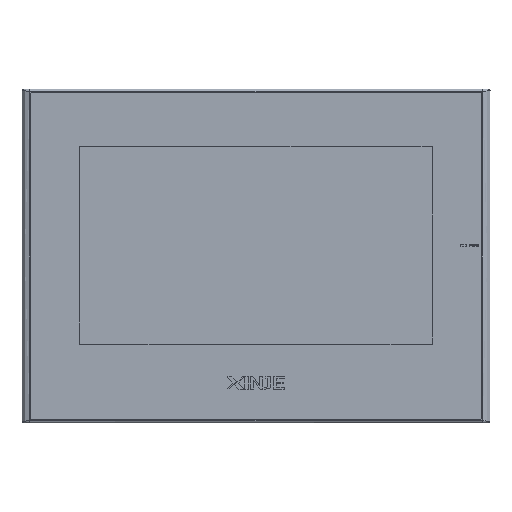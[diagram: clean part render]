
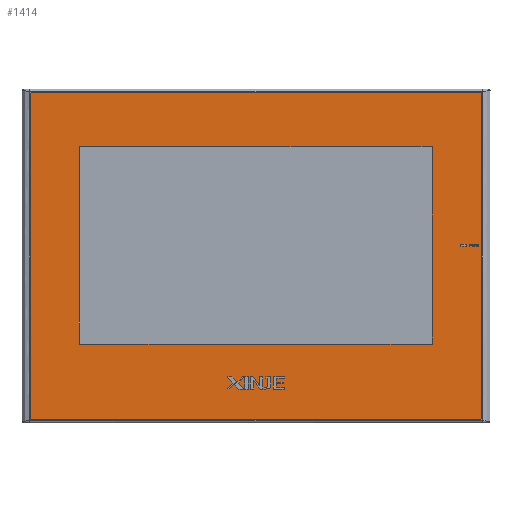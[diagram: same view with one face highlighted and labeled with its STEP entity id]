
A CAD part, front view. The second image highlights one B-rep face of the part: STEP entity #1414.
In plain terms, the highlighted free-form (B-spline) face has degree [1, 1] with [2, 2] control points.
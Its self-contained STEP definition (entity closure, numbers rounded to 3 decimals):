
#146=(
BOUNDED_CURVE()
B_SPLINE_CURVE(2,(#39148,#39149,#39150),.UNSPECIFIED.,.F.,.F.)
B_SPLINE_CURVE_WITH_KNOTS((3,3),(-1165.627,-1023.427),
 .UNSPECIFIED.)
CURVE()
GEOMETRIC_REPRESENTATION_ITEM()
RATIONAL_B_SPLINE_CURVE((1.,1.,1.))
REPRESENTATION_ITEM('')
);
#150=(
BOUNDED_CURVE()
B_SPLINE_CURVE(2,(#39160,#39161,#39162,#39163,#39164),.UNSPECIFIED.,.F.,
 .F.)
B_SPLINE_CURVE_WITH_KNOTS((3,2,3),(-1023.427,-1022.765,
-1022.102),.UNSPECIFIED.)
CURVE()
GEOMETRIC_REPRESENTATION_ITEM()
RATIONAL_B_SPLINE_CURVE((1.,0.924,1.,0.924,1.))
REPRESENTATION_ITEM('')
);
#153=(
BOUNDED_CURVE()
B_SPLINE_CURVE(2,(#39170,#39171,#39172),.UNSPECIFIED.,.F.,.F.)
B_SPLINE_CURVE_WITH_KNOTS((3,3),(-1022.102,-825.902),
 .UNSPECIFIED.)
CURVE()
GEOMETRIC_REPRESENTATION_ITEM()
RATIONAL_B_SPLINE_CURVE((1.,1.,1.))
REPRESENTATION_ITEM('')
);
#156=(
BOUNDED_CURVE()
B_SPLINE_CURVE(2,(#39180,#39181,#39182,#39183,#39184),.UNSPECIFIED.,.F.,
 .F.)
B_SPLINE_CURVE_WITH_KNOTS((3,2,3),(-825.902,-825.239,
-824.576),.UNSPECIFIED.)
CURVE()
GEOMETRIC_REPRESENTATION_ITEM()
RATIONAL_B_SPLINE_CURVE((1.,0.924,1.,0.924,1.))
REPRESENTATION_ITEM('')
);
#159=(
BOUNDED_CURVE()
B_SPLINE_CURVE(2,(#39190,#39191,#39192),.UNSPECIFIED.,.F.,.F.)
B_SPLINE_CURVE_WITH_KNOTS((3,3),(-824.576,-682.376),
 .UNSPECIFIED.)
CURVE()
GEOMETRIC_REPRESENTATION_ITEM()
RATIONAL_B_SPLINE_CURVE((1.,1.,1.))
REPRESENTATION_ITEM('')
);
#162=(
BOUNDED_CURVE()
B_SPLINE_CURVE(2,(#39200,#39201,#39202,#39203,#39204),.UNSPECIFIED.,.F.,
 .F.)
B_SPLINE_CURVE_WITH_KNOTS((3,2,3),(-682.376,-681.714,
-681.051),.UNSPECIFIED.)
CURVE()
GEOMETRIC_REPRESENTATION_ITEM()
RATIONAL_B_SPLINE_CURVE((1.,0.924,1.,0.924,1.))
REPRESENTATION_ITEM('')
);
#165=(
BOUNDED_CURVE()
B_SPLINE_CURVE(2,(#39210,#39211,#39212),.UNSPECIFIED.,.F.,.F.)
B_SPLINE_CURVE_WITH_KNOTS((3,3),(-681.051,-484.851),
 .UNSPECIFIED.)
CURVE()
GEOMETRIC_REPRESENTATION_ITEM()
RATIONAL_B_SPLINE_CURVE((1.,1.,1.))
REPRESENTATION_ITEM('')
);
#167=(
BOUNDED_CURVE()
B_SPLINE_CURVE(2,(#39216,#39217,#39218),.UNSPECIFIED.,.F.,.F.)
B_SPLINE_CURVE_WITH_KNOTS((3,3),(-484.851,-483.251),
 .UNSPECIFIED.)
CURVE()
GEOMETRIC_REPRESENTATION_ITEM()
RATIONAL_B_SPLINE_CURVE((1.,0.707,1.))
REPRESENTATION_ITEM('')
);
#532=B_SPLINE_SURFACE_WITH_KNOTS('',1,1,((#39123,#39124),(#39125,#39126)),
 .UNSPECIFIED.,.F.,.F.,.F.,(2,2),(2,2),(-222.525,24.725),
(-18.775,160.975),.UNSPECIFIED.);
#1414=ADVANCED_FACE('',(#3473),#532,.T.);
#3473=FACE_OUTER_BOUND('',#5534,.T.);
#5534=EDGE_LOOP('',(#7885,#7886,#7887,#7888,#7889,#7890,#7891,#7892));
#7885=ORIENTED_EDGE('',*,*,#19020,.T.);
#7886=ORIENTED_EDGE('',*,*,#19024,.T.);
#7887=ORIENTED_EDGE('',*,*,#19027,.T.);
#7888=ORIENTED_EDGE('',*,*,#19030,.T.);
#7889=ORIENTED_EDGE('',*,*,#19033,.T.);
#7890=ORIENTED_EDGE('',*,*,#19036,.T.);
#7891=ORIENTED_EDGE('',*,*,#19039,.T.);
#7892=ORIENTED_EDGE('',*,*,#19041,.T.);
#19020=EDGE_CURVE('',#29829,#29828,#146,.T.);
#19024=EDGE_CURVE('',#29828,#29831,#150,.T.);
#19027=EDGE_CURVE('',#29831,#29833,#153,.T.);
#19030=EDGE_CURVE('',#29833,#29835,#156,.T.);
#19033=EDGE_CURVE('',#29835,#29837,#159,.T.);
#19036=EDGE_CURVE('',#29837,#29839,#162,.T.);
#19039=EDGE_CURVE('',#29839,#29841,#165,.T.);
#19041=EDGE_CURVE('',#29841,#29829,#167,.T.);
#29828=VERTEX_POINT('',#39129);
#29829=VERTEX_POINT('',#39130);
#29831=VERTEX_POINT('',#39132);
#29833=VERTEX_POINT('',#39134);
#29835=VERTEX_POINT('',#39136);
#29837=VERTEX_POINT('',#39138);
#29839=VERTEX_POINT('',#39140);
#29841=VERTEX_POINT('',#39142);
#39123=CARTESIAN_POINT('',(226.63,0.305,16.314));
#39124=CARTESIAN_POINT('',(226.63,0.305,-163.436));
#39125=CARTESIAN_POINT('',(-20.62,0.305,16.314));
#39126=CARTESIAN_POINT('',(-20.62,0.305,-163.436));
#39129=CARTESIAN_POINT('',(4.105,0.305,-144.661));
#39130=CARTESIAN_POINT('',(4.105,0.305,-2.461));
#39132=CARTESIAN_POINT('',(4.905,0.305,-145.461));
#39134=CARTESIAN_POINT('',(201.105,0.305,-145.461));
#39136=CARTESIAN_POINT('',(201.905,0.305,-144.661));
#39138=CARTESIAN_POINT('',(201.905,0.305,-2.461));
#39140=CARTESIAN_POINT('',(201.105,0.305,-1.661));
#39142=CARTESIAN_POINT('',(4.905,0.305,-1.661));
#39148=CARTESIAN_POINT('',(4.105,0.305,-2.461));
#39149=CARTESIAN_POINT('',(4.105,0.305,-73.561));
#39150=CARTESIAN_POINT('',(4.105,0.305,-144.661));
#39160=CARTESIAN_POINT('',(4.105,0.305,-144.661));
#39161=CARTESIAN_POINT('',(4.105,0.305,-144.992));
#39162=CARTESIAN_POINT('',(4.34,0.305,-145.227));
#39163=CARTESIAN_POINT('',(4.574,0.305,-145.461));
#39164=CARTESIAN_POINT('',(4.905,0.305,-145.461));
#39170=CARTESIAN_POINT('',(4.905,0.305,-145.461));
#39171=CARTESIAN_POINT('',(103.005,0.305,-145.461));
#39172=CARTESIAN_POINT('',(201.105,0.305,-145.461));
#39180=CARTESIAN_POINT('',(201.105,0.305,-145.461));
#39181=CARTESIAN_POINT('',(201.437,0.305,-145.461));
#39182=CARTESIAN_POINT('',(201.671,0.305,-145.227));
#39183=CARTESIAN_POINT('',(201.905,0.305,-144.992));
#39184=CARTESIAN_POINT('',(201.905,0.305,-144.661));
#39190=CARTESIAN_POINT('',(201.905,0.305,-144.661));
#39191=CARTESIAN_POINT('',(201.905,0.305,-73.561));
#39192=CARTESIAN_POINT('',(201.905,0.305,-2.461));
#39200=CARTESIAN_POINT('',(201.905,0.305,-2.461));
#39201=CARTESIAN_POINT('',(201.905,0.305,-2.13));
#39202=CARTESIAN_POINT('',(201.671,0.305,-1.895));
#39203=CARTESIAN_POINT('',(201.437,0.305,-1.661));
#39204=CARTESIAN_POINT('',(201.105,0.305,-1.661));
#39210=CARTESIAN_POINT('',(201.105,0.305,-1.661));
#39211=CARTESIAN_POINT('',(103.005,0.305,-1.661));
#39212=CARTESIAN_POINT('',(4.905,0.305,-1.661));
#39216=CARTESIAN_POINT('',(4.905,0.305,-1.661));
#39217=CARTESIAN_POINT('',(4.105,0.305,-1.661));
#39218=CARTESIAN_POINT('',(4.105,0.305,-2.461));
